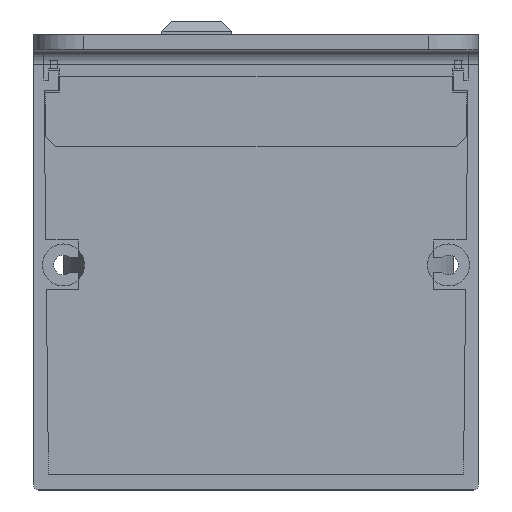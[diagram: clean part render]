
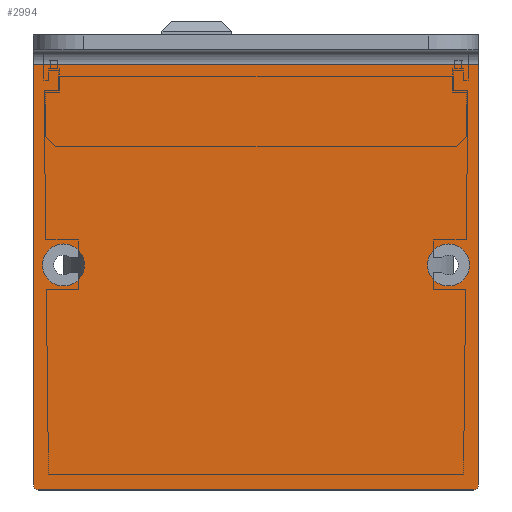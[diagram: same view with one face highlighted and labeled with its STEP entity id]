
A CAD part, left-side view. The second image highlights one B-rep face of the part: STEP entity #2994.
In plain terms, the highlighted planar face has unit normal (-1, 0, 0) as drawn and (1, 0, 0) by its records, which use the part's own axes.
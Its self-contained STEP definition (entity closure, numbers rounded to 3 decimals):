
#2994=ADVANCED_FACE('',(#21106,#21108,#21110),#21112,.F.);
#21106=FACE_BOUND('',#21107,.T.);
#21107=EDGE_LOOP('',(#34191,#34192,#34193,#34194,#34195,#34196));
#21108=FACE_BOUND('',#21109,.T.);
#21109=EDGE_LOOP('',(#34197));
#21110=FACE_BOUND('',#21111,.T.);
#21111=EDGE_LOOP('',(#34198));
#21112=PLANE('',#21113);
#21113=AXIS2_PLACEMENT_3D('',#21114,#21115,#21116);
#21114=CARTESIAN_POINT('',(0.,0.,0.));
#21115=DIRECTION('',(-1.,0.,0.));
#21116=DIRECTION('',(0.,1.,0.));
#34191=ORIENTED_EDGE('',*,*,#47694,.T.);
#34192=ORIENTED_EDGE('',*,*,#47695,.T.);
#34193=ORIENTED_EDGE('',*,*,#47696,.T.);
#34194=ORIENTED_EDGE('',*,*,#47685,.F.);
#34195=ORIENTED_EDGE('',*,*,#47697,.T.);
#34196=ORIENTED_EDGE('',*,*,#47698,.T.);
#34197=ORIENTED_EDGE('',*,*,#47699,.F.);
#34198=ORIENTED_EDGE('',*,*,#47700,.F.);
#47685=EDGE_CURVE('',#53484,#53486,#53487,.T.);
#47694=EDGE_CURVE('',#53498,#53499,#53500,.T.);
#47695=EDGE_CURVE('',#53499,#53501,#53502,.F.);
#47696=EDGE_CURVE('',#53501,#53486,#53503,.T.);
#47697=EDGE_CURVE('',#53484,#53504,#53505,.T.);
#47698=EDGE_CURVE('',#53504,#53498,#53506,.F.);
#47699=EDGE_CURVE('',#53507,#53507,#53508,.T.);
#47700=EDGE_CURVE('',#53509,#53509,#53510,.T.);
#53484=VERTEX_POINT('',#63826);
#53486=VERTEX_POINT('',#63831);
#53487=LINE('',#63832,#63833);
#53498=VERTEX_POINT('',#63864);
#53499=VERTEX_POINT('',#63865);
#53500=LINE('',#63866,#63867);
#53501=VERTEX_POINT('',#63869);
#53502=CIRCLE('',#63870,0.5);
#53503=LINE('',#63874,#63875);
#53504=VERTEX_POINT('',#63877);
#53505=LINE('',#63878,#63879);
#53506=CIRCLE('',#63881,0.5);
#53507=VERTEX_POINT('',#63885);
#53508=CIRCLE('',#63886,2.1);
#53509=VERTEX_POINT('',#63890);
#53510=CIRCLE('',#63891,2.1);
#63826=CARTESIAN_POINT('',(0.,19.75,-22.25));
#63831=CARTESIAN_POINT('',(0.,19.75,22.25));
#63832=CARTESIAN_POINT('',(0.,19.75,-22.25));
#63833=VECTOR('',#63834,1.);
#63834=DIRECTION('',(0.,0.,1.));
#63864=CARTESIAN_POINT('',(0.,-22.75,-21.75));
#63865=CARTESIAN_POINT('',(0.,-22.75,21.75));
#63866=CARTESIAN_POINT('',(0.,-22.75,-21.75));
#63867=VECTOR('',#63868,1.);
#63868=DIRECTION('',(0.,0.,1.));
#63869=CARTESIAN_POINT('',(0.,-22.25,22.25));
#63870=AXIS2_PLACEMENT_3D('',#63871,#63872,#63873);
#63871=CARTESIAN_POINT('',(0.,-22.25,21.75));
#63872=DIRECTION('',(1.,0.,0.));
#63873=DIRECTION('',(0.,0.,1.));
#63874=CARTESIAN_POINT('',(0.,-22.25,22.25));
#63875=VECTOR('',#63876,1.);
#63876=DIRECTION('',(0.,1.,0.));
#63877=CARTESIAN_POINT('',(0.,-22.25,-22.25));
#63878=CARTESIAN_POINT('',(0.,19.75,-22.25));
#63879=VECTOR('',#63880,1.);
#63880=DIRECTION('',(0.,-1.,0.));
#63881=AXIS2_PLACEMENT_3D('',#63882,#63883,#63884);
#63882=CARTESIAN_POINT('',(0.,-22.25,-21.75));
#63883=DIRECTION('',(1.,0.,0.));
#63884=DIRECTION('',(0.,-1.,0.));
#63885=CARTESIAN_POINT('',(0.,1.85,19.25));
#63886=AXIS2_PLACEMENT_3D('',#63887,#63888,#63889);
#63887=CARTESIAN_POINT('',(0.,-0.25,19.25));
#63888=DIRECTION('',(-1.,0.,0.));
#63889=DIRECTION('',(0.,1.,0.));
#63890=CARTESIAN_POINT('',(0.,1.85,-19.25));
#63891=AXIS2_PLACEMENT_3D('',#63892,#63893,#63894);
#63892=CARTESIAN_POINT('',(0.,-0.25,-19.25));
#63893=DIRECTION('',(-1.,0.,0.));
#63894=DIRECTION('',(0.,1.,0.));
